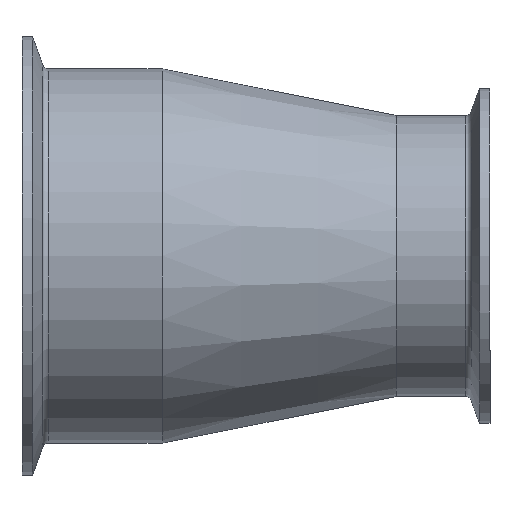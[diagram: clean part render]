
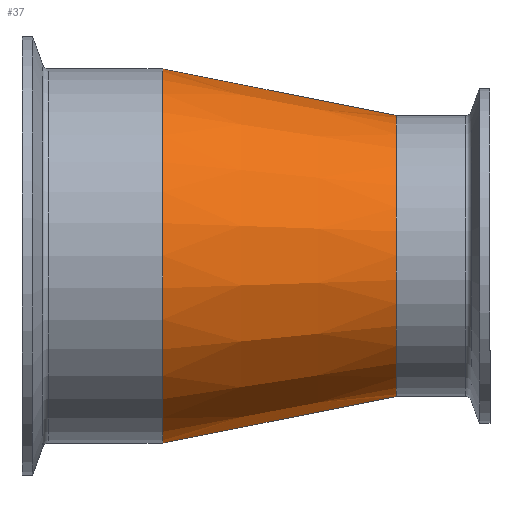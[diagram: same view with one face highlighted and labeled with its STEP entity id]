
A CAD part, top view. The second image highlights one B-rep face of the part: STEP entity #37.
In plain terms, the highlighted conical face has half-angle 11.31 degrees and reference radius 38.1 mm.
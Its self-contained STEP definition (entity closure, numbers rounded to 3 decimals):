
#37 = ADVANCED_FACE ( 'NONE', ( #788 ), #215, .T. ) ;
#60 = ORIENTED_EDGE ( 'NONE', *, *, #838, .T. ) ;
#61 = AXIS2_PLACEMENT_3D ( 'NONE', #1259, #1302, #1308 ) ;
#88 = CARTESIAN_POINT ( 'NONE',  ( 13.105, -38.1, 0. ) ) ;
#127 = CARTESIAN_POINT ( 'NONE',  ( 13.105, -38.1, 0. ) ) ;
#128 = LINE ( 'NONE', #88, #717 ) ;
#215 = CONICAL_SURFACE ( 'NONE', #888, 38.1, 0.197 ) ;
#230 = EDGE_CURVE ( 'NONE', #1141, #707, #128, .T. ) ;
#250 = EDGE_LOOP ( 'NONE', ( #802, #1222, #60, #1435 ) ) ;
#269 = CIRCLE ( 'NONE', #1472, 50.785 ) ;
#319 = CARTESIAN_POINT ( 'NONE',  ( -50.319, 50.785, 0. ) ) ;
#324 = DIRECTION ( 'NONE',  ( -1., 0., 0. ) ) ;
#387 = CARTESIAN_POINT ( 'NONE',  ( -50.319, 0., 0. ) ) ;
#452 = CARTESIAN_POINT ( 'NONE',  ( -50.319, -50.785, 0. ) ) ;
#581 = LINE ( 'NONE', #1345, #835 ) ;
#601 = DIRECTION ( 'NONE',  ( -0.981, -0.196, 0. ) ) ;
#660 = VERTEX_POINT ( 'NONE', #839 ) ;
#678 = CARTESIAN_POINT ( 'NONE',  ( 13.105, 0., 0. ) ) ;
#707 = VERTEX_POINT ( 'NONE', #452 ) ;
#717 = VECTOR ( 'NONE', #601, 1000. ) ;
#742 = DIRECTION ( 'NONE',  ( 0., -1., 0. ) ) ;
#788 = FACE_OUTER_BOUND ( 'NONE', #250, .T. ) ;
#802 = ORIENTED_EDGE ( 'NONE', *, *, #859, .F. ) ;
#822 = EDGE_CURVE ( 'NONE', #660, #1247, #581, .T. ) ;
#835 = VECTOR ( 'NONE', #935, 1000. ) ;
#838 = EDGE_CURVE ( 'NONE', #1247, #707, #269, .T. ) ;
#839 = CARTESIAN_POINT ( 'NONE',  ( 13.105, 38.1, 0. ) ) ;
#859 = EDGE_CURVE ( 'NONE', #660, #1141, #1376, .T. ) ;
#888 = AXIS2_PLACEMENT_3D ( 'NONE', #678, #324, #742 ) ;
#935 = DIRECTION ( 'NONE',  ( -0.981, 0.196, 0. ) ) ;
#1034 = DIRECTION ( 'NONE',  ( 1., 0., 0. ) ) ;
#1041 = DIRECTION ( 'NONE',  ( 0., 1., 0. ) ) ;
#1141 = VERTEX_POINT ( 'NONE', #127 ) ;
#1222 = ORIENTED_EDGE ( 'NONE', *, *, #822, .T. ) ;
#1247 = VERTEX_POINT ( 'NONE', #319 ) ;
#1259 = CARTESIAN_POINT ( 'NONE',  ( 13.105, 0., 0. ) ) ;
#1302 = DIRECTION ( 'NONE',  ( 1., 0., 0. ) ) ;
#1308 = DIRECTION ( 'NONE',  ( 0., 1., 0. ) ) ;
#1345 = CARTESIAN_POINT ( 'NONE',  ( 13.105, 38.1, 0. ) ) ;
#1376 = CIRCLE ( 'NONE', #61, 38.1 ) ;
#1435 = ORIENTED_EDGE ( 'NONE', *, *, #230, .F. ) ;
#1472 = AXIS2_PLACEMENT_3D ( 'NONE', #387, #1034, #1041 ) ;
